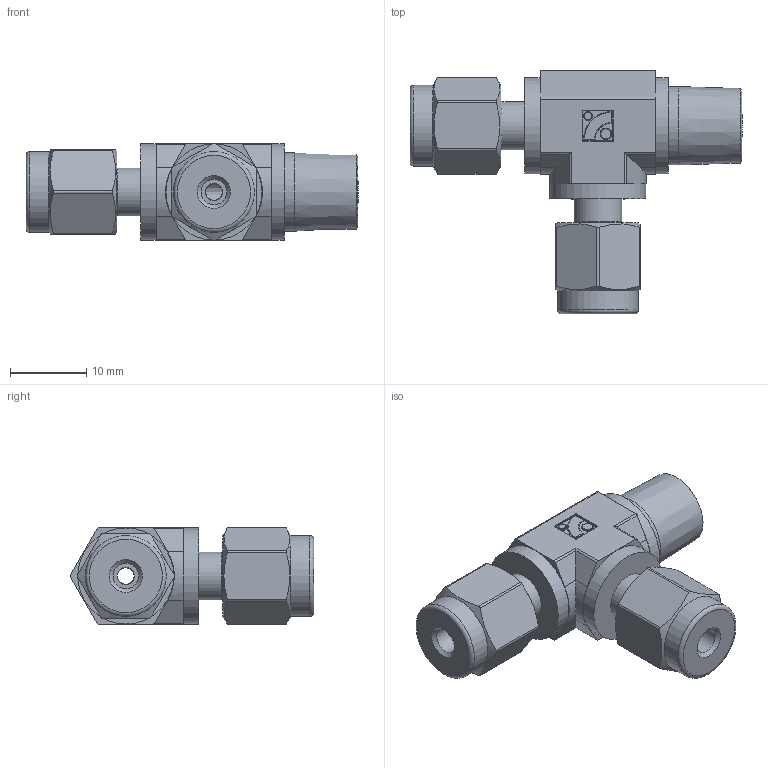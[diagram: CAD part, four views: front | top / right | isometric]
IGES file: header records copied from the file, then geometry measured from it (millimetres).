
Global section: file name: No Iges File Name specified; native system: Autodesk Inventor 2012; preprocessor: AutoDesk Inventor Iges Exporter R2012; author: 硅己绕,, ; organization: 11; date: 20150815.154127; units: millimetre
Bounding box: 43.56 x 31.94 x 12.73 mm (x, y, z)
Volume: 6060.8 mm3; surface area: 3363.1 mm2
Topology: 1 solids, 1 shells, 147 faces, 338 edges, 204 vertices
Faces by surface type: cylinder 48, plane 47, revolution 30, torus 10, cone 8, sphere 4
Full cylindrical faces by diameter (mm): 1.08 x1, 1.44 x1, 6.28 x2, 10.28 x1, 10.6 x2, 12.6 x3
